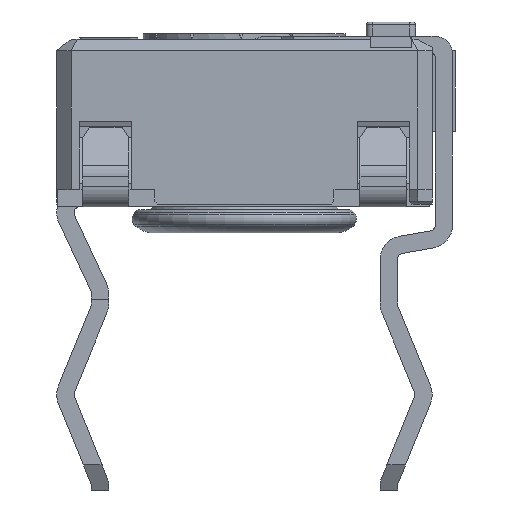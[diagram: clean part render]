
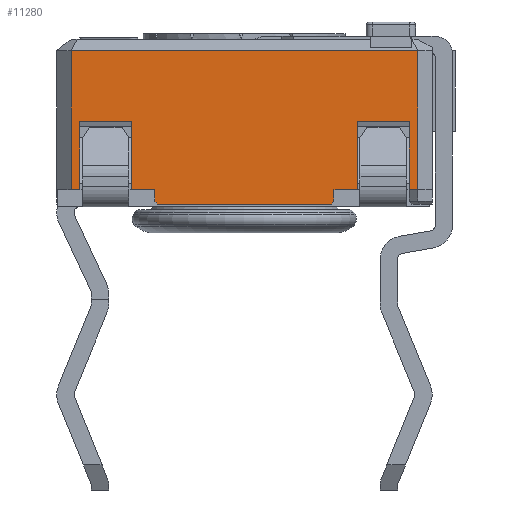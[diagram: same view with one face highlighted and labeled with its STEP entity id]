
A CAD part, left-side view. The second image highlights one B-rep face of the part: STEP entity #11280.
In plain terms, the highlighted planar face has unit normal (-1, 0, 0).
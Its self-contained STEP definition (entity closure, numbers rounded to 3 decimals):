
#988=FACE_OUTER_BOUND('',#1590,.T.);
#1590=EDGE_LOOP('',(#9661,#9662,#9663,#9664,#9665,#9666,#9667,#9668,#9669,
#9670,#9671,#9672,#9673,#9674,#9675,#9676,#9677,#9678));
#2358=LINE('',#17154,#3630);
#2477=LINE('',#17417,#3749);
#2483=LINE('',#17430,#3755);
#2489=LINE('',#17441,#3761);
#2495=LINE('',#17452,#3767);
#2500=LINE('',#17462,#3772);
#2503=LINE('',#17468,#3775);
#2535=LINE('',#17530,#3807);
#2559=LINE('',#17585,#3831);
#2571=LINE('',#17605,#3843);
#2573=LINE('',#17610,#3845);
#2582=LINE('',#17629,#3854);
#2584=LINE('',#17632,#3856);
#2604=LINE('',#17673,#3876);
#2782=LINE('',#18119,#4054);
#2795=LINE('',#18143,#4067);
#2796=LINE('',#18145,#4068);
#2797=LINE('',#18147,#4069);
#3630=VECTOR('',#13879,10.);
#3749=VECTOR('',#14064,10.);
#3755=VECTOR('',#14072,10.);
#3761=VECTOR('',#14078,10.);
#3767=VECTOR('',#14086,10.);
#3772=VECTOR('',#14093,10.);
#3775=VECTOR('',#14098,10.);
#3807=VECTOR('',#14140,10.);
#3831=VECTOR('',#14192,10.);
#3843=VECTOR('',#14212,10.);
#3845=VECTOR('',#14216,10.);
#3854=VECTOR('',#14237,10.);
#3856=VECTOR('',#14241,10.);
#3876=VECTOR('',#14275,10.);
#4054=VECTOR('',#14703,10.);
#4067=VECTOR('',#14724,10.);
#4068=VECTOR('',#14727,10.);
#4069=VECTOR('',#14730,10.);
#4844=VERTEX_POINT('',#17151);
#4845=VERTEX_POINT('',#17153);
#4955=VERTEX_POINT('',#17414);
#4956=VERTEX_POINT('',#17416);
#4960=VERTEX_POINT('',#17426);
#4962=VERTEX_POINT('',#17429);
#4967=VERTEX_POINT('',#17439);
#4970=VERTEX_POINT('',#17449);
#4974=VERTEX_POINT('',#17459);
#4977=VERTEX_POINT('',#17466);
#5000=VERTEX_POINT('',#17517);
#5002=VERTEX_POINT('',#17529);
#5019=VERTEX_POINT('',#17581);
#5024=VERTEX_POINT('',#17607);
#5029=VERTEX_POINT('',#17628);
#5164=VERTEX_POINT('',#18116);
#5165=VERTEX_POINT('',#18118);
#5172=VERTEX_POINT('',#18141);
#6155=EDGE_CURVE('',#4845,#4844,#2358,.T.);
#6290=EDGE_CURVE('',#4956,#4955,#2477,.T.);
#6296=EDGE_CURVE('',#4962,#4960,#2483,.T.);
#6302=EDGE_CURVE('',#4955,#4967,#2489,.T.);
#6308=EDGE_CURVE('',#4960,#4970,#2495,.T.);
#6313=EDGE_CURVE('',#4970,#4974,#2500,.T.);
#6316=EDGE_CURVE('',#4974,#4977,#2503,.T.);
#6348=EDGE_CURVE('',#5002,#4956,#2535,.T.);
#6378=EDGE_CURVE('',#4844,#5002,#2559,.T.);
#6390=EDGE_CURVE('',#4845,#5019,#2571,.T.);
#6392=EDGE_CURVE('',#4967,#5024,#2573,.T.);
#6401=EDGE_CURVE('',#5029,#5000,#2582,.T.);
#6403=EDGE_CURVE('',#5019,#5000,#2584,.T.);
#6424=EDGE_CURVE('',#4977,#5029,#2604,.T.);
#6643=EDGE_CURVE('',#5164,#5165,#2782,.T.);
#6656=EDGE_CURVE('',#5172,#5024,#2795,.T.);
#6657=EDGE_CURVE('',#5172,#5165,#2796,.T.);
#6658=EDGE_CURVE('',#5164,#4962,#2797,.T.);
#9661=ORIENTED_EDGE('',*,*,#6656,.F.);
#9662=ORIENTED_EDGE('',*,*,#6657,.T.);
#9663=ORIENTED_EDGE('',*,*,#6643,.F.);
#9664=ORIENTED_EDGE('',*,*,#6658,.T.);
#9665=ORIENTED_EDGE('',*,*,#6296,.T.);
#9666=ORIENTED_EDGE('',*,*,#6308,.T.);
#9667=ORIENTED_EDGE('',*,*,#6313,.T.);
#9668=ORIENTED_EDGE('',*,*,#6316,.T.);
#9669=ORIENTED_EDGE('',*,*,#6424,.T.);
#9670=ORIENTED_EDGE('',*,*,#6401,.T.);
#9671=ORIENTED_EDGE('',*,*,#6403,.F.);
#9672=ORIENTED_EDGE('',*,*,#6390,.F.);
#9673=ORIENTED_EDGE('',*,*,#6155,.T.);
#9674=ORIENTED_EDGE('',*,*,#6378,.T.);
#9675=ORIENTED_EDGE('',*,*,#6348,.T.);
#9676=ORIENTED_EDGE('',*,*,#6290,.T.);
#9677=ORIENTED_EDGE('',*,*,#6302,.T.);
#9678=ORIENTED_EDGE('',*,*,#6392,.T.);
#10479=PLANE('',#12132);
#11280=ADVANCED_FACE('',(#988),#10479,.T.);
#12132=AXIS2_PLACEMENT_3D('',#18328,#14932,#14933);
#13879=DIRECTION('',(0.,-1.,0.));
#14064=DIRECTION('',(0.,0.,-1.));
#14072=DIRECTION('',(0.,-1.,0.));
#14078=DIRECTION('',(0.,-1.,0.));
#14086=DIRECTION('',(0.,0.,1.));
#14093=DIRECTION('',(0.,-1.,0.));
#14098=DIRECTION('',(0.,0.,-1.));
#14140=DIRECTION('',(0.,-1.,0.));
#14192=DIRECTION('',(0.,0.,1.));
#14212=DIRECTION('',(0.,0.,1.));
#14216=DIRECTION('',(0.,0.,-1.));
#14237=DIRECTION('',(0.,0.,1.));
#14241=DIRECTION('',(0.,-1.,0.));
#14275=DIRECTION('',(0.,-1.,0.));
#14703=DIRECTION('',(0.,0.707,-0.707));
#14724=DIRECTION('',(0.,0.707,0.707));
#14727=DIRECTION('',(0.,-1.,0.));
#14730=DIRECTION('',(0.,0.,1.));
#14932=DIRECTION('center_axis',(-1.,0.,0.));
#14933=DIRECTION('ref_axis',(0.,0.,1.));
#17151=CARTESIAN_POINT('',(-14.26,-8.882,0.25));
#17153=CARTESIAN_POINT('',(-14.26,-8.732,0.25));
#17154=CARTESIAN_POINT('',(-14.26,-13.244,0.25));
#17414=CARTESIAN_POINT('',(-14.26,-9.782,0.25));
#17416=CARTESIAN_POINT('',(-14.26,-9.782,1.425));
#17417=CARTESIAN_POINT('',(-14.26,-9.782,0.387));
#17426=CARTESIAN_POINT('',(-14.26,-13.682,0.25));
#17429=CARTESIAN_POINT('',(-14.26,-13.282,0.25));
#17430=CARTESIAN_POINT('',(-14.26,-13.244,0.25));
#17439=CARTESIAN_POINT('',(-14.26,-10.182,0.25));
#17441=CARTESIAN_POINT('',(-14.26,-13.244,0.25));
#17449=CARTESIAN_POINT('',(-14.26,-13.682,1.425));
#17452=CARTESIAN_POINT('',(-14.26,-13.682,0.387));
#17459=CARTESIAN_POINT('',(-14.26,-14.582,1.425));
#17462=CARTESIAN_POINT('',(-14.26,-14.657,1.425));
#17466=CARTESIAN_POINT('',(-14.26,-14.582,0.25));
#17468=CARTESIAN_POINT('',(-14.26,-14.582,0.387));
#17517=CARTESIAN_POINT('',(-14.26,-14.732,2.655));
#17529=CARTESIAN_POINT('',(-14.26,-8.882,1.425));
#17530=CARTESIAN_POINT('',(-14.26,-11.807,1.425));
#17581=CARTESIAN_POINT('',(-14.26,-8.732,2.655));
#17585=CARTESIAN_POINT('',(-14.26,-8.882,0.387));
#17605=CARTESIAN_POINT('',(-14.26,-8.732,0.));
#17607=CARTESIAN_POINT('',(-14.26,-10.182,0.05));
#17610=CARTESIAN_POINT('',(-14.26,-10.182,0.));
#17628=CARTESIAN_POINT('',(-14.26,-14.732,0.25));
#17629=CARTESIAN_POINT('',(-14.26,-14.732,0.));
#17632=CARTESIAN_POINT('',(-14.26,-13.232,2.655));
#17673=CARTESIAN_POINT('',(-14.26,-13.244,0.25));
#18116=CARTESIAN_POINT('',(-14.26,-13.282,0.05));
#18118=CARTESIAN_POINT('',(-14.26,-13.232,0.));
#18119=CARTESIAN_POINT('',(-14.26,-13.619,0.388));
#18141=CARTESIAN_POINT('',(-14.26,-10.232,0.));
#18143=CARTESIAN_POINT('',(-14.26,-11.344,-1.113));
#18145=CARTESIAN_POINT('',(-14.26,-8.732,0.));
#18147=CARTESIAN_POINT('',(-14.26,-13.282,0.));
#18328=CARTESIAN_POINT('Origin',(-14.26,-14.732,0.));
